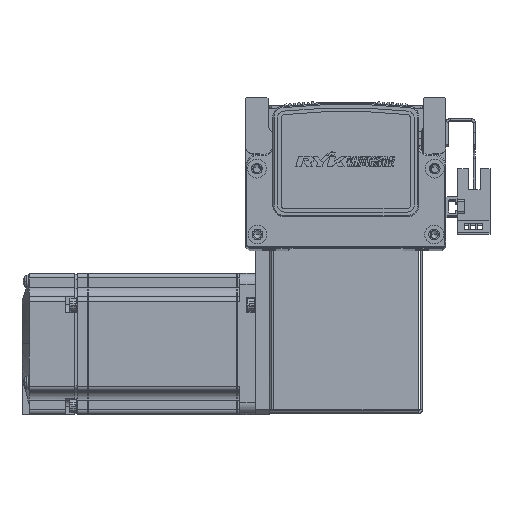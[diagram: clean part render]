
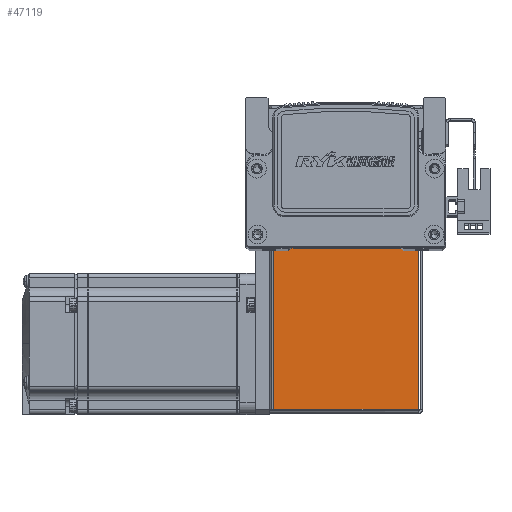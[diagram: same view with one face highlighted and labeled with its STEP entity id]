
A CAD part, top view. The second image highlights one B-rep face of the part: STEP entity #47119.
In plain terms, the highlighted planar face has unit normal (0, 0, 1) as drawn and (0, 0, -1) by its records, which use the part's own axes.
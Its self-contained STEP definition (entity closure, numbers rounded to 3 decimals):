
#10982 = EDGE_LOOP ( 'NONE', ( #24873, #24811, #24826, #24817 ) ) ;
#12808 = PLANE ( 'NONE',  #23155 ) ;
#12820 = CARTESIAN_POINT ( 'NONE',  ( 0., 0., -35. ) ) ;
#12821 = DIRECTION ( 'NONE',  ( 0., 0., 1. ) ) ;
#12840 = DIRECTION ( 'NONE',  ( 0., -1., 0. ) ) ;
#23155 = AXIS2_PLACEMENT_3D ( 'NONE', #12820, #12821, #12840 ) ;
#24811 = ORIENTED_EDGE ( 'NONE', *, *, #59155, .F. ) ;
#24817 = ORIENTED_EDGE ( 'NONE', *, *, #59163, .T. ) ;
#24826 = ORIENTED_EDGE ( 'NONE', *, *, #59156, .T. ) ;
#24873 = ORIENTED_EDGE ( 'NONE', *, *, #59198, .T. ) ;
#41606 = FACE_OUTER_BOUND ( 'NONE', #10982, .T. ) ;
#47119 = ADVANCED_FACE ( 'NONE', ( #41606 ), #12808, .F. ) ;
#51044 = VERTEX_POINT ( 'NONE', #54327 ) ;
#51045 = VERTEX_POINT ( 'NONE', #54319 ) ;
#51052 = VERTEX_POINT ( 'NONE', #54336 ) ;
#51084 = VERTEX_POINT ( 'NONE', #54411 ) ;
#54319 = CARTESIAN_POINT ( 'NONE',  ( -30.793, 0.737, -35. ) ) ;
#54327 = CARTESIAN_POINT ( 'NONE',  ( -30.793, 72.5, -35. ) ) ;
#54336 = CARTESIAN_POINT ( 'NONE',  ( 30.763, 0.737, -35. ) ) ;
#54411 = CARTESIAN_POINT ( 'NONE',  ( 30.763, 72.5, -35. ) ) ;
#59155 = EDGE_CURVE ( 'NONE', #51045, #51052, #69491, .T. ) ;
#59156 = EDGE_CURVE ( 'NONE', #51045, #51044, #69493, .T. ) ;
#59163 = EDGE_CURVE ( 'NONE', #51044, #51084, #69518, .T. ) ;
#59198 = EDGE_CURVE ( 'NONE', #51084, #51052, #69590, .T. ) ;
#69491 = LINE ( 'NONE', #70720, #69538 ) ;
#69493 = LINE ( 'NONE', #70734, #69494 ) ;
#69494 = VECTOR ( 'NONE', #70798, 1000. ) ;
#69518 = LINE ( 'NONE', #70845, #69519 ) ;
#69519 = VECTOR ( 'NONE', #70812, 1000. ) ;
#69538 = VECTOR ( 'NONE', #70796, 1000. ) ;
#69590 = LINE ( 'NONE', #71089, #69592 ) ;
#69592 = VECTOR ( 'NONE', #71083, 1000. ) ;
#70720 = CARTESIAN_POINT ( 'NONE',  ( 32.5, 0.737, -35. ) ) ;
#70734 = CARTESIAN_POINT ( 'NONE',  ( -30.793, 0., -35. ) ) ;
#70796 = DIRECTION ( 'NONE',  ( 1., 0., 0. ) ) ;
#70798 = DIRECTION ( 'NONE',  ( 0., 1., 0. ) ) ;
#70812 = DIRECTION ( 'NONE',  ( 1., 0., 0. ) ) ;
#70845 = CARTESIAN_POINT ( 'NONE',  ( 0., 72.5, -35. ) ) ;
#71083 = DIRECTION ( 'NONE',  ( 0., -1., 0. ) ) ;
#71089 = CARTESIAN_POINT ( 'NONE',  ( 30.763, 72.5, -35. ) ) ;
